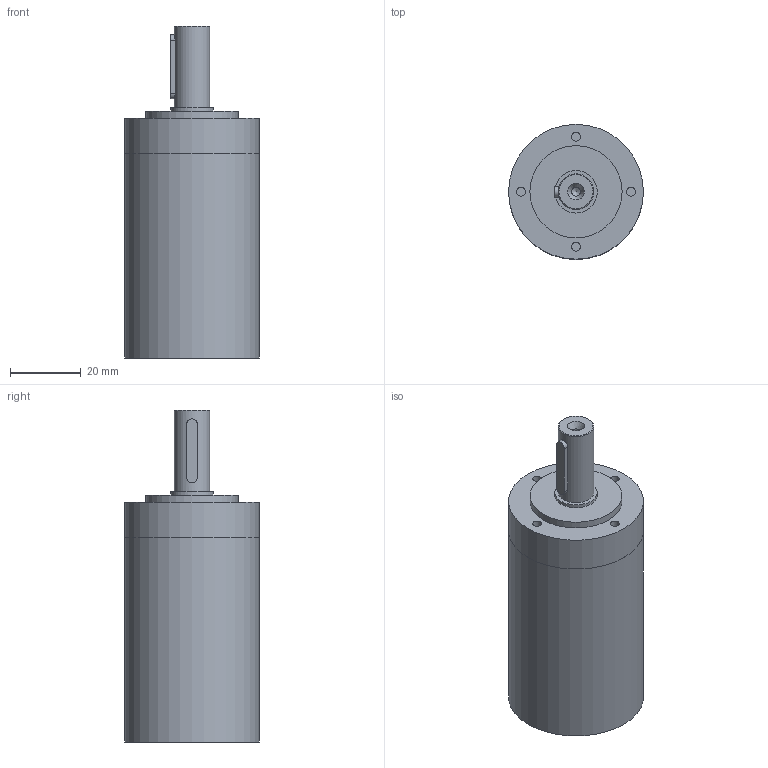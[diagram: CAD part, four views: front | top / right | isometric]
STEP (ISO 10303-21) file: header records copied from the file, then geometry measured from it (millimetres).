
FILE_DESCRIPTION(/* description */ (''),/* implementation_level */ '2;1');
FILE_NAME(/* name */ '38-A_3.stp',/* time_stamp */ '2016-09-16T12:04:42+02:00',/* author */ ('DR. FRITZ FAULHABER GmbH & Co. KG'),/* organization */ ('DR. FRITZ FAULHABER GmbH & Co. KG'),/* preprocessor_version */ 'ST-DEVELOPER v16',/* originating_system */ 'SIEMENS PLM Software NX 10.0',/* authorisation */ '');
FILE_SCHEMA (('AUTOMOTIVE_DESIGN { 1 0 10303 214 3 1 1 1 }'));
Length unit declared in the file: millimetre
Products named in the file (1): huge19E82220l2qg
Bounding box: 38 x 38 x 93.6 mm (x, y, z)
Volume: 66727.4 mm3; surface area: 13334.7 mm2
Topology: 1 solids, 1 shells, 40 faces, 72 edges, 48 vertices
Faces by surface type: plane 19, cylinder 18, cone 3
Full cylindrical faces by diameter (mm): 2.5 x5, 10 x1, 12 x1, 17.88 x1, 18.28 x1, 26 x1, 32.6 x1, 33.3 x1, 35.459 x1, 37.99 x1, 38 x2
Entity records: 930 total; most frequent: CARTESIAN_POINT 190, DIRECTION 162, ORIENTED_EDGE 92, AXIS2_PLACEMENT_3D 77, EDGE_LOOP 74, FACE_BOUND 65, EDGE_CURVE 46, VERTEX_POINT 43
